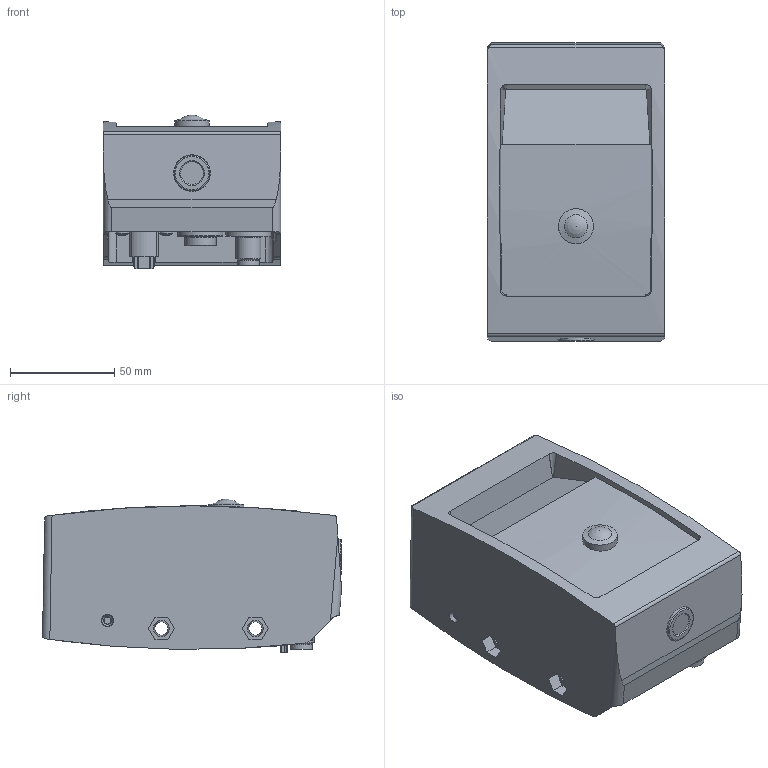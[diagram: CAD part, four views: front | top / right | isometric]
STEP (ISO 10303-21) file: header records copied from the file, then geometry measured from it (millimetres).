
FILE_DESCRIPTION( ( 'STEP AP203' ), '1' );
FILE_NAME( 'p:/temp/worker_257/temp/exporttempdir_5660_667_ZCnWz/format_4/O3M271.stp', '2020-09-28T09:22:05', ( 'License CC BY-ND 4.0' ), ( 'CADENAS' ), ' ', 'PARTsolutions', ' ' );
FILE_SCHEMA( ( 'CONFIG_CONTROL_DESIGN' ) );
Length unit declared in the file: millimetre
Products named in the file (1): _O3M271
Bounding box: 85 x 143.17 x 73.6 mm (x, y, z)
Volume: 716562.1 mm3; surface area: 63588.3 mm2
Topology: 1 solids, 1 shells, 298 faces, 783 edges, 515 vertices
Faces by surface type: plane 149, cylinder 121, cone 20, torus 7, sphere 1
Full cylindrical faces by diameter (mm): 2.928 x2, 6 x2, 7.426 x4, 8.3 x1, 8.55 x1, 10.35 x1, 11 x1, 12 x1, 15 x1, 16.75 x1, 17 x1, 17.57 x1, 21.7 x2
Entity records: 9388 total; most frequent: CARTESIAN_POINT 1993, DIRECTION 1592, ORIENTED_EDGE 1454, EDGE_CURVE 727, AXIS2_PLACEMENT_3D 592, VERTEX_POINT 503, LINE 408, VECTOR 408
